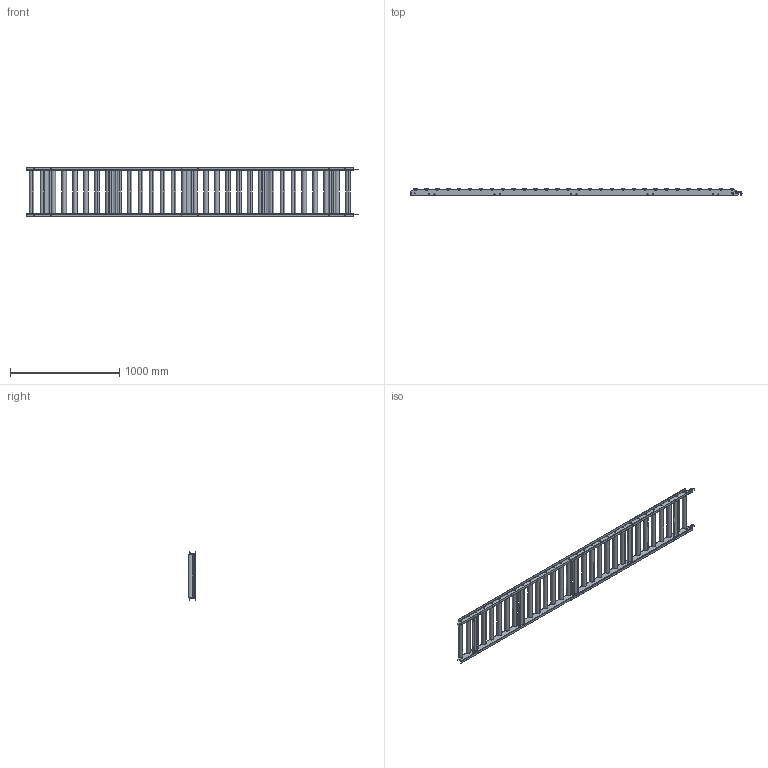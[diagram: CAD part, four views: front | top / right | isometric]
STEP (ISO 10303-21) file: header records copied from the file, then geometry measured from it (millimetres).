
FILE_DESCRIPTION (( 'STEP AP203' ), '1' );
FILE_NAME ('SA-4218M.step', '2024-03-07T09:13:47', ( '' ), ( '' ), 'SwSTEP 2.0', 'SolidWorks 2023', '' );
FILE_SCHEMA (( 'CONFIG_CONTROL_DESIGN' ));
Length unit declared in the file: millimetre
Products named in the file (1): SA-4218M
Bounding box: 3042 x 72.22 x 450 mm (x, y, z)
Volume: 19206818.1 mm3; surface area: 3855003.5 mm2
Topology: 139 solids, 139 shells, 2321 faces, 5199 edges, 3266 vertices
Faces by surface type: plane 980, cylinder 741, cone 480, torus 120
Entity records: 67868 total; most frequent: CARTESIAN_POINT 15925, DIRECTION 10981, ORIENTED_EDGE 10398, EDGE_CURVE 5199, AXIS2_PLACEMENT_3D 4514, VERTEX_POINT 3266, EDGE_LOOP 2759, FACE_OUTER_BOUND 2321
